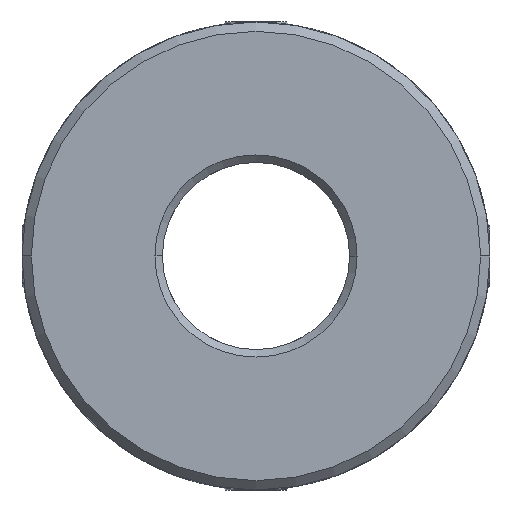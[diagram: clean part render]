
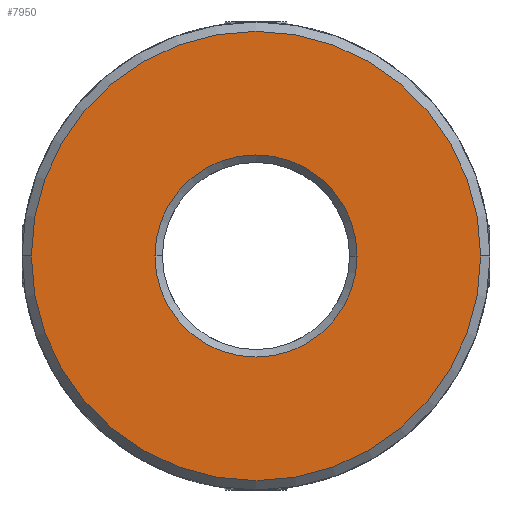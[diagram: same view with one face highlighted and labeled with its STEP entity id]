
A CAD part, front view. The second image highlights one B-rep face of the part: STEP entity #7950.
In plain terms, the highlighted planar face has unit normal (0, -1, 0).
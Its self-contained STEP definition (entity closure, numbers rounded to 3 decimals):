
#622 = VERTEX_POINT ( 'NONE', #3768 ) ;
#1231 = AXIS2_PLACEMENT_3D ( 'NONE', #6475, #3448, #5816 ) ;
#1330 = CIRCLE ( 'NONE', #4313, 5.4 ) ;
#1364 = DIRECTION ( 'NONE',  ( -1., 0., 0. ) ) ;
#1426 = EDGE_CURVE ( 'NONE', #9334, #2964, #1330, .T. ) ;
#1485 = CARTESIAN_POINT ( 'NONE',  ( 5.4, -28., 0. ) ) ;
#1526 = EDGE_CURVE ( 'NONE', #2964, #9334, #3131, .T. ) ;
#1769 = DIRECTION ( 'NONE',  ( -1., 0., 0. ) ) ;
#1853 = AXIS2_PLACEMENT_3D ( 'NONE', #6717, #7502, #1364 ) ;
#2140 = DIRECTION ( 'NONE',  ( -1., 0., 0. ) ) ;
#2212 = EDGE_LOOP ( 'NONE', ( #5233, #9790 ) ) ;
#2244 = CARTESIAN_POINT ( 'NONE',  ( 0., -28., 0. ) ) ;
#2396 = CARTESIAN_POINT ( 'NONE',  ( -5.4, -28., 0. ) ) ;
#2660 = ORIENTED_EDGE ( 'NONE', *, *, #1526, .T. ) ;
#2664 = EDGE_LOOP ( 'NONE', ( #4953, #2660 ) ) ;
#2964 = VERTEX_POINT ( 'NONE', #2396 ) ;
#3035 = DIRECTION ( 'NONE',  ( 0., 1., 0. ) ) ;
#3131 = CIRCLE ( 'NONE', #6711, 5.4 ) ;
#3448 = DIRECTION ( 'NONE',  ( 0., 1., 0. ) ) ;
#3768 = CARTESIAN_POINT ( 'NONE',  ( -12., -28., 0. ) ) ;
#4313 = AXIS2_PLACEMENT_3D ( 'NONE', #2244, #6179, #5366 ) ;
#4482 = CARTESIAN_POINT ( 'NONE',  ( 0., -28., 0. ) ) ;
#4953 = ORIENTED_EDGE ( 'NONE', *, *, #1426, .T. ) ;
#5233 = ORIENTED_EDGE ( 'NONE', *, *, #8628, .T. ) ;
#5366 = DIRECTION ( 'NONE',  ( -1., 0., 0. ) ) ;
#5816 = DIRECTION ( 'NONE',  ( -1., 0., 0. ) ) ;
#6179 = DIRECTION ( 'NONE',  ( 0., 1., 0. ) ) ;
#6211 = EDGE_CURVE ( 'NONE', #6336, #622, #7298, .T. ) ;
#6336 = VERTEX_POINT ( 'NONE', #7618 ) ;
#6475 = CARTESIAN_POINT ( 'NONE',  ( -19.597, -28., -50. ) ) ;
#6711 = AXIS2_PLACEMENT_3D ( 'NONE', #4482, #3035, #1769 ) ;
#6717 = CARTESIAN_POINT ( 'NONE',  ( 0., -28., 0. ) ) ;
#7298 = CIRCLE ( 'NONE', #1853, 12. ) ;
#7502 = DIRECTION ( 'NONE',  ( 0., -1., 0. ) ) ;
#7618 = CARTESIAN_POINT ( 'NONE',  ( 12., -28., 0. ) ) ;
#7950 = ADVANCED_FACE ( 'NONE', ( #8288, #8631 ), #7996, .F. ) ;
#7996 = PLANE ( 'NONE',  #1231 ) ;
#8190 = CARTESIAN_POINT ( 'NONE',  ( 0., -28., 0. ) ) ;
#8288 = FACE_OUTER_BOUND ( 'NONE', #2212, .T. ) ;
#8628 = EDGE_CURVE ( 'NONE', #622, #6336, #9113, .T. ) ;
#8631 = FACE_BOUND ( 'NONE', #2664, .T. ) ;
#8864 = AXIS2_PLACEMENT_3D ( 'NONE', #8190, #9771, #2140 ) ;
#9113 = CIRCLE ( 'NONE', #8864, 12. ) ;
#9334 = VERTEX_POINT ( 'NONE', #1485 ) ;
#9771 = DIRECTION ( 'NONE',  ( 0., -1., 0. ) ) ;
#9790 = ORIENTED_EDGE ( 'NONE', *, *, #6211, .T. ) ;
